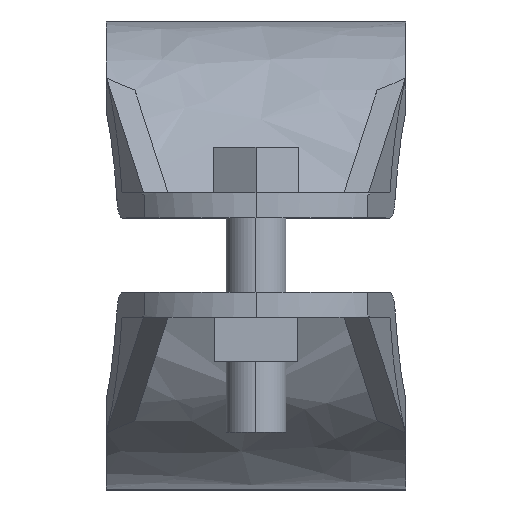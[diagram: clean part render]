
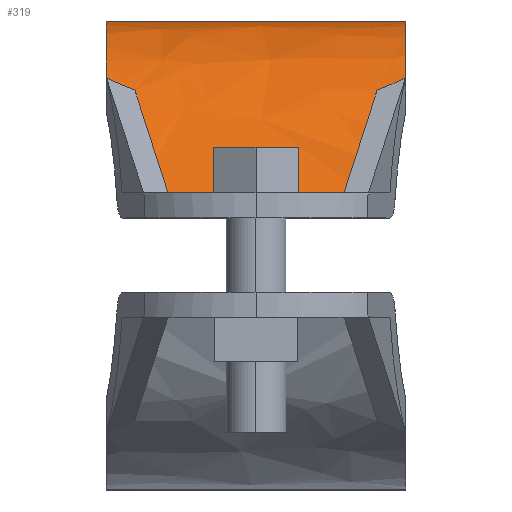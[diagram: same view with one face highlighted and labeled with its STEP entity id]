
A CAD part, top view. The second image highlights one B-rep face of the part: STEP entity #319.
In plain terms, the highlighted free-form (B-spline) face has degree [3, 1] with [4, 2] control points.
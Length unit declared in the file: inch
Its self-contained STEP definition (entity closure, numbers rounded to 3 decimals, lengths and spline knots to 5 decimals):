
#319=ADVANCED_FACE('',(#658),#659,.T.);
#658=FACE_OUTER_BOUND('',#1162,.T.);
#659=B_SPLINE_SURFACE_WITH_KNOTS('',3,1,((#1163,#1164),(#1165,#1166),(#1167,#1168),(#1169,#1170)),.UNSPECIFIED.,.F.,.F.,.F.,(4,4),(2,2),(-1.0,-0.0),(0.0,1.25),.UNSPECIFIED.);
#1162=EDGE_LOOP('',(#1954,#1955,#1956,#1957,#1958,#1959,#1960,#1961,#1962,#1963,#1964,#1965));
#1163=CARTESIAN_POINT('',(-0.00008,1.95255,1.53727));
#1164=CARTESIAN_POINT('',(1.24992,1.95255,1.53727));
#1165=CARTESIAN_POINT('',(-0.00008,1.95255,1.9762));
#1166=CARTESIAN_POINT('',(1.24992,1.95255,1.9762));
#1167=CARTESIAN_POINT('',(-0.00008,1.6596,2.36118));
#1168=CARTESIAN_POINT('',(1.24992,1.6596,2.36118));
#1169=CARTESIAN_POINT('',(-0.00008,1.23653,2.47821));
#1170=CARTESIAN_POINT('',(1.24992,1.23653,2.47821));
#1954=ORIENTED_EDGE('',*,*,#2638,.F.);
#1955=ORIENTED_EDGE('',*,*,#2574,.T.);
#1956=ORIENTED_EDGE('',*,*,#2510,.T.);
#1957=ORIENTED_EDGE('',*,*,#2646,.T.);
#1958=ORIENTED_EDGE('',*,*,#2480,.T.);
#1959=ORIENTED_EDGE('',*,*,#2647,.T.);
#1960=ORIENTED_EDGE('',*,*,#2560,.T.);
#1961=ORIENTED_EDGE('',*,*,#2648,.T.);
#1962=ORIENTED_EDGE('',*,*,#2649,.F.);
#1963=ORIENTED_EDGE('',*,*,#2650,.T.);
#1964=ORIENTED_EDGE('',*,*,#2530,.F.);
#1965=ORIENTED_EDGE('',*,*,#2599,.T.);
#2480=EDGE_CURVE('',#2976,#2974,#2977,.T.);
#2510=EDGE_CURVE('',#3027,#3028,#3029,.T.);
#2530=EDGE_CURVE('',#3058,#3060,#3061,.T.);
#2560=EDGE_CURVE('',#3100,#3101,#3102,.T.);
#2574=EDGE_CURVE('',#3121,#3027,#3122,.T.);
#2599=EDGE_CURVE('',#3058,#3154,#3156,.T.);
#2638=EDGE_CURVE('',#3121,#3154,#3207,.T.);
#2646=EDGE_CURVE('',#3028,#2976,#3216,.T.);
#2647=EDGE_CURVE('',#2974,#3100,#3217,.T.);
#2648=EDGE_CURVE('',#3101,#3218,#3219,.T.);
#2649=EDGE_CURVE('',#3220,#3218,#3221,.T.);
#2650=EDGE_CURVE('',#3220,#3060,#3222,.T.);
#2974=VERTEX_POINT('',#3751);
#2976=VERTEX_POINT('',#3754);
#2977=LINE('',#3755,#3756);
#3027=VERTEX_POINT('',#3837);
#3028=VERTEX_POINT('',#3838);
#3029=B_SPLINE_CURVE_WITH_KNOTS('',3,(#3839,#3840,#3841,#3842),.UNSPECIFIED.,.F.,.F.,(4,4),(-0.40496,-0.0),.UNSPECIFIED.);
#3058=VERTEX_POINT('',#3886);
#3060=VERTEX_POINT('',#3889);
#3061=LINE('',#3890,#3891);
#3100=VERTEX_POINT('',#3950);
#3101=VERTEX_POINT('',#3951);
#3102=B_SPLINE_CURVE_WITH_KNOTS('',3,(#3952,#3953,#3954,#3955,#3956,#3957),.UNSPECIFIED.,.F.,.F.,(4,2,4),(-0.37055,-0.17106,-0.0),.UNSPECIFIED.);
#3121=VERTEX_POINT('',#4012);
#3122=B_SPLINE_CURVE_WITH_KNOTS('',3,(#4013,#4014,#4015,#4016),.UNSPECIFIED.,.F.,.F.,(4,4),(-0.00179,-0.0),.UNSPECIFIED.);
#3154=VERTEX_POINT('',#4079);
#3156=B_SPLINE_CURVE_WITH_KNOTS('',3,(#4082,#4083,#4084,#4085),.UNSPECIFIED.,.F.,.F.,(4,4),(-1.0,-0.0),.UNSPECIFIED.);
#3207=B_SPLINE_CURVE_WITH_KNOTS('',3,(#4186,#4187,#4188,#4189,#4190,#4191),.UNSPECIFIED.,.F.,.F.,(4,2,4),(0.0,0.13162,0.25996),.UNSPECIFIED.);
#3216=B_SPLINE_CURVE_WITH_KNOTS('',3,(#4204,#4205,#4206,#4207,#4208,#4209),.UNSPECIFIED.,.F.,.F.,(4,2,4),(-0.66788,-0.33816,-0.0),.UNSPECIFIED.);
#3217=B_SPLINE_CURVE_WITH_KNOTS('',3,(#4210,#4211,#4212,#4213,#4214,#4215),.UNSPECIFIED.,.F.,.F.,(4,2,4),(-0.66715,-0.3291,-0.0),.UNSPECIFIED.);
#3218=VERTEX_POINT('',#4216);
#3219=B_SPLINE_CURVE_WITH_KNOTS('',3,(#4217,#4218,#4219,#4220),.UNSPECIFIED.,.F.,.F.,(4,4),(-0.00179,-0.0),.UNSPECIFIED.);
#3220=VERTEX_POINT('',#4221);
#3221=B_SPLINE_CURVE_WITH_KNOTS('',3,(#4222,#4223,#4224,#4225,#4226,#4227),.UNSPECIFIED.,.F.,.F.,(4,2,4),(0.0,0.11535,0.23381),.UNSPECIFIED.);
#3222=B_SPLINE_CURVE_WITH_KNOTS('',3,(#4228,#4229,#4230,#4231),.UNSPECIFIED.,.F.,.F.,(4,4),(0.0,1.0),.UNSPECIFIED.);
#3751=CARTESIAN_POINT('',(1.07774,1.23653,2.47821));
#3754=CARTESIAN_POINT('',(0.17207,1.23653,2.47821));
#3755=CARTESIAN_POINT('',(-0.00008,1.23653,2.47821));
#3756=VECTOR('',#4458,1.0);
#3837=CARTESIAN_POINT('',(0.00014,1.71827,2.17174));
#3838=CARTESIAN_POINT('',(0.11863,1.66744,2.22678));
#3839=CARTESIAN_POINT('',(0.,1.71834,2.17166));
#3840=CARTESIAN_POINT('',(0.0822,1.67556,2.22171));
#3841=CARTESIAN_POINT('',(0.21114,1.63346,2.26076));
#3842=CARTESIAN_POINT('',(0.3379,1.59767,2.29031));
#3886=CARTESIAN_POINT('',(0.,1.95255,1.53727));
#3889=CARTESIAN_POINT('',(1.24981,1.95255,1.53727));
#3890=CARTESIAN_POINT('',(-0.00008,1.95255,1.53727));
#3891=VECTOR('',#4497,1.0);
#3950=CARTESIAN_POINT('',(1.13118,1.66744,2.22678));
#3951=CARTESIAN_POINT('',(1.24967,1.71827,2.17174));
#3952=CARTESIAN_POINT('',(0.91191,1.59767,2.29031));
#3953=CARTESIAN_POINT('',(0.97411,1.61523,2.27581));
#3954=CARTESIAN_POINT('',(1.03891,1.6349,2.25853));
#3955=CARTESIAN_POINT('',(1.14963,1.67357,2.22104));
#3956=CARTESIAN_POINT('',(1.20531,1.69518,2.19876));
#3957=CARTESIAN_POINT('',(1.24981,1.71834,2.17166));
#4012=CARTESIAN_POINT('',(0.00028,1.71711,2.1731));
#4013=CARTESIAN_POINT('',(0.00028,1.71711,2.1731));
#4014=CARTESIAN_POINT('',(0.00023,1.71749,2.17265));
#4015=CARTESIAN_POINT('',(0.00019,1.71788,2.17219));
#4016=CARTESIAN_POINT('',(0.00014,1.71827,2.17174));
#4079=CARTESIAN_POINT('',(0.,1.71824,2.17177));
#4082=CARTESIAN_POINT('',(0.,1.95255,1.53727));
#4083=CARTESIAN_POINT('',(0.,1.95255,1.9762));
#4084=CARTESIAN_POINT('',(0.,1.6596,2.36118));
#4085=CARTESIAN_POINT('',(0.,1.23653,2.47821));
#4186=CARTESIAN_POINT('',(0.06514,1.23653,2.47821));
#4187=CARTESIAN_POINT('',(0.05955,1.33154,2.45193));
#4188=CARTESIAN_POINT('',(0.05099,1.42157,2.41168));
#4189=CARTESIAN_POINT('',(0.02875,1.58444,2.30702));
#4190=CARTESIAN_POINT('',(0.01534,1.65654,2.24395));
#4191=CARTESIAN_POINT('',(0.,1.71824,2.17177));
#4204=CARTESIAN_POINT('',(0.0934,1.76827,2.1081));
#4205=CARTESIAN_POINT('',(0.11206,1.705,2.19586));
#4206=CARTESIAN_POINT('',(0.12844,1.62734,2.27293));
#4207=CARTESIAN_POINT('',(0.15545,1.44684,2.40003));
#4208=CARTESIAN_POINT('',(0.16569,1.345,2.44821));
#4209=CARTESIAN_POINT('',(0.17207,1.23653,2.47821));
#4210=CARTESIAN_POINT('',(1.07774,1.23653,2.47821));
#4211=CARTESIAN_POINT('',(1.08412,1.34508,2.44818));
#4212=CARTESIAN_POINT('',(1.09437,1.447,2.39996));
#4213=CARTESIAN_POINT('',(1.1214,1.62746,2.27281));
#4214=CARTESIAN_POINT('',(1.13777,1.70505,2.1958));
#4215=CARTESIAN_POINT('',(1.15641,1.76827,2.1081));
#4216=CARTESIAN_POINT('',(1.24953,1.71711,2.1731));
#4217=CARTESIAN_POINT('',(1.24967,1.71827,2.17174));
#4218=CARTESIAN_POINT('',(1.24962,1.71788,2.17219));
#4219=CARTESIAN_POINT('',(1.24957,1.71749,2.17265));
#4220=CARTESIAN_POINT('',(1.24953,1.71711,2.1731));
#4221=CARTESIAN_POINT('',(1.24981,1.71824,2.17177));
#4222=CARTESIAN_POINT('',(1.24981,1.71824,2.17177));
#4223=CARTESIAN_POINT('',(1.23448,1.65658,2.2439));
#4224=CARTESIAN_POINT('',(1.22108,1.58453,2.30694));
#4225=CARTESIAN_POINT('',(1.19883,1.42168,2.41163));
#4226=CARTESIAN_POINT('',(1.19026,1.3316,2.45191));
#4227=CARTESIAN_POINT('',(1.18467,1.23653,2.47821));
#4228=CARTESIAN_POINT('',(1.24981,1.23653,2.47821));
#4229=CARTESIAN_POINT('',(1.24981,1.6596,2.36118));
#4230=CARTESIAN_POINT('',(1.24981,1.95255,1.9762));
#4231=CARTESIAN_POINT('',(1.24981,1.95255,1.53727));
#4458=DIRECTION('',(1.0,0.0,0.));
#4497=DIRECTION('',(1.0,0.0,0.));
